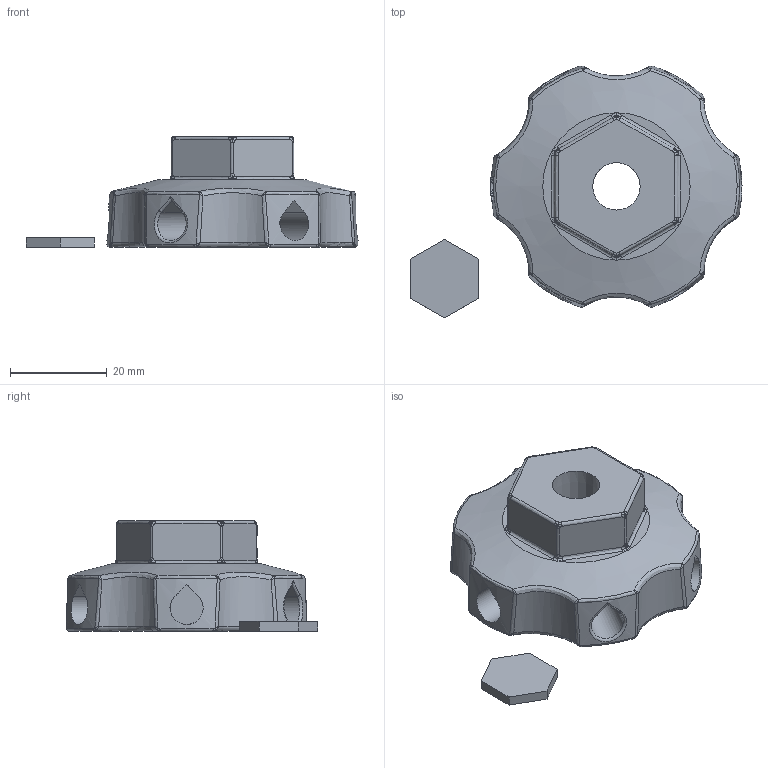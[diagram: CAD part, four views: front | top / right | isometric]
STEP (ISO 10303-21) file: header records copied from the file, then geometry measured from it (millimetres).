
FILE_DESCRIPTION(/* description */ (''),/* implementation_level */ '2;1');
FILE_NAME(/* name */ '2025_11_28_petesquared_feet_leveling.step',/* time_stamp */ '2025-11-28T05:29:31-08:00',/* author */ (''),/* organization */ (''),/* preprocessor_version */ 'ST-DEVELOPER v20.1',/* originating_system */ 'Autodesk Translation Framework v14.21.0.0',/* authorisation */ '');
FILE_SCHEMA (('AUTOMOTIVE_DESIGN { 1 0 10303 214 3 1 1 }'));
Length unit declared in the file: inch
Products named in the file (1): 3dprinter_stand_caster
Bounding box: 68.64 x 52.1 x 22.86 mm (x, y, z)
Volume: 23903.2 mm3; surface area: 9890.3 mm2
Topology: 2 solids, 2 shells, 229 faces, 563 edges, 322 vertices
Faces by surface type: bspline 155, plane 42, torus 12, cylinder 12, cone 8
Entity records: 11278 total; most frequent: CARTESIAN_POINT 7041, ORIENTED_EDGE 1078, EDGE_CURVE 539, DIRECTION 498, B_SPLINE_CURVE_WITH_KNOTS 331, VERTEX_POINT 322, EDGE_LOOP 239, FACE_OUTER_BOUND 229
